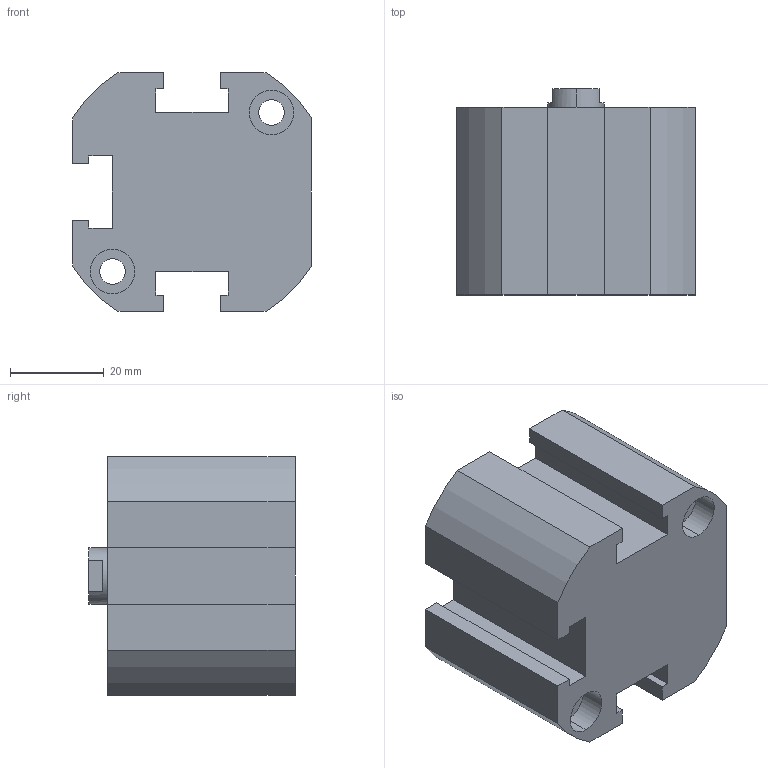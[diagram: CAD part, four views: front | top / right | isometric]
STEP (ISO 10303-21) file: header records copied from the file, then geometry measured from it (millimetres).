
FILE_DESCRIPTION (( 'STEP AP203' ), '1' );
FILE_NAME ('XC#1-32D-10.STEP', '2016-05-23T07:55:01', ( '' ), ( '' ), 'SwSTEP 2.0', 'SolidWorks 2014', '' );
FILE_SCHEMA (( 'CONFIG_CONTROL_DESIGN' ));
Length unit declared in the file: millimetre
Products named in the file (1): XC#1-32D-10
Bounding box: 51 x 44 x 51 mm (x, y, z)
Volume: 79178.5 mm3; surface area: 16875.2 mm2
Topology: 1 solids, 1 shells, 91 faces, 231 edges, 150 vertices
Faces by surface type: plane 45, cylinder 40, cone 6
Entity records: 2822 total; most frequent: DIRECTION 499, CARTESIAN_POINT 469, ORIENTED_EDGE 454, EDGE_CURVE 227, AXIS2_PLACEMENT_3D 180, VERTEX_POINT 150, LINE 139, VECTOR 139
